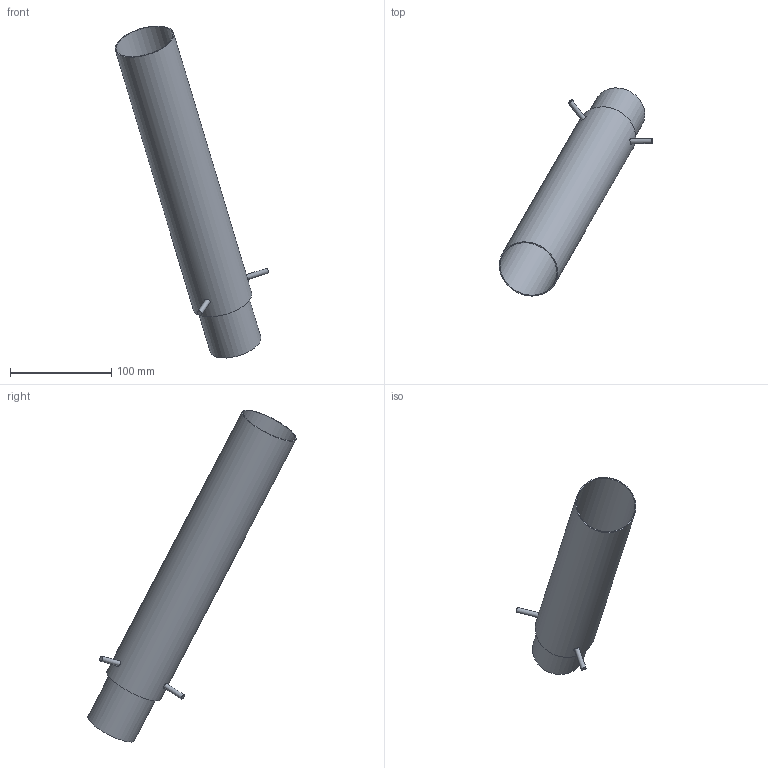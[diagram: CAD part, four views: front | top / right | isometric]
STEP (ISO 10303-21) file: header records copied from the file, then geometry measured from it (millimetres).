
FILE_DESCRIPTION(/* description */ (''),/* implementation_level */ '2;1');
FILE_NAME(/* name */ 'D:\TK Lighting\Look Graphite\3147\Look Graphite 3147.stp',/* time_stamp */ '2020-12-21T16:46:31+01:00',/* author */ ('Admin'),/* organization */ (''),/* preprocessor_version */ 'ST-DEVELOPER v16.5',/* originating_system */ 'Autodesk Inventor 2017',/* authorisation */ '');
FILE_SCHEMA (('AUTOMOTIVE_DESIGN { 1 0 10303 214 3 1 1 }'));
Length unit declared in the file: inch
Products named in the file (4): Look Graphite 3147; lampa 3147; Klosz szklany; Lacznik 3147
Assembly tree (5 placements, depth 2):
  Look Graphite 3147
    lampa 3147
    Klosz szklany
    Lacznik 3147  x3
Bounding box: 152.19 x 206.56 x 328.59 mm (x, y, z)
Volume: 338279 mm3; surface area: 139958.7 mm2
Topology: 5 solids, 5 shells, 27 faces, 45 edges, 30 vertices
Faces by surface type: plane 14, cylinder 13
Full cylindrical faces by diameter (mm): 5 x3, 5.5 x3, 6 x3, 48 x1, 52 x1, 58 x1, 60 x1
Entity records: 901 total; most frequent: CARTESIAN_POINT 371, DIRECTION 86, EDGE_LOOP 44, ORIENTED_EDGE 44, AXIS2_PLACEMENT_3D 43, FACE_BOUND 23, VERTEX_POINT 22, EDGE_CURVE 22
